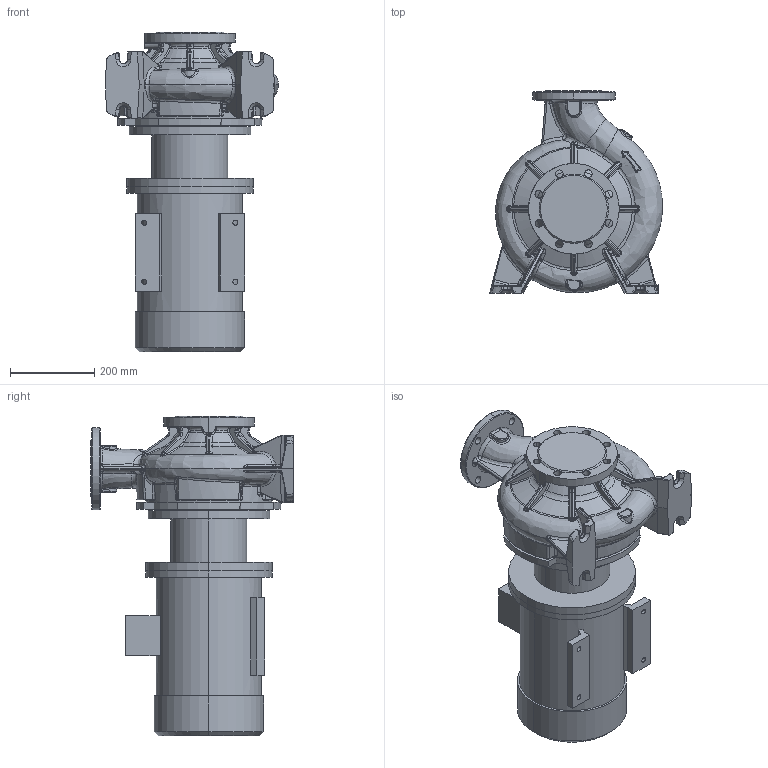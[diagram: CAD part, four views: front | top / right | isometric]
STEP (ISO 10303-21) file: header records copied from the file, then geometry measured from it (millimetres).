
FILE_DESCRIPTION (( 'STEP AP214' ), '1' );
FILE_NAME ('KRM 100-80-250-4-5,5.STEP', '2026-04-22T08:46:50', ( '' ), ( '' ), 'SwSTEP 2.0', 'SolidWorks 2016', '' );
FILE_SCHEMA (( 'AUTOMOTIVE_DESIGN' ));
Length unit declared in the file: millimetre
Products named in the file (1): KRM 100-80-250-4-5,5
Bounding box: 410.06 x 480 x 757.8 mm (x, y, z)
Volume: 45474214.7 mm3; surface area: 1771978.1 mm2
Topology: 8 solids, 8 shells, 1191 faces, 2881 edges, 1678 vertices
Faces by surface type: bspline 481, cylinder 305, plane 193, torus 112, cone 61, sphere 39
Entity records: 86196 total; most frequent: CARTESIAN_POINT 49022, ORIENTED_EDGE 5678, DIRECTION 4250, EDGE_CURVE 2839, AXIS2_PLACEMENT_3D 1820, VERTEX_POINT 1678, EDGE_LOOP 1237, UNCERTAINTY_MEASURE_WITH_UNIT 1201
